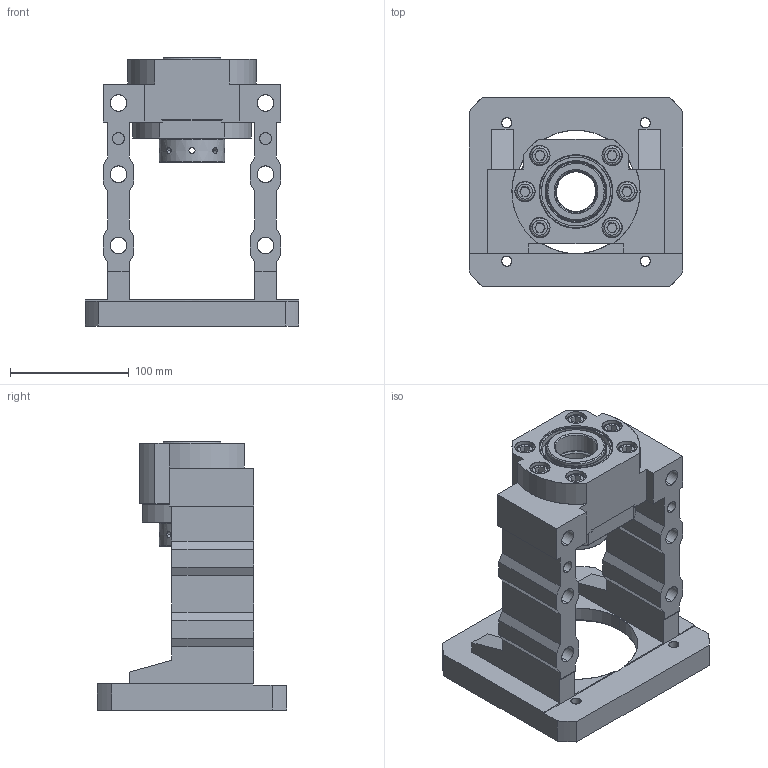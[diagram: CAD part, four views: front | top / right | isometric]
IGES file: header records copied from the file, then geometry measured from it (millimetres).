
Start section: SolidWorks IGES file using analytic representation for surfaces
Bounding box: 180 x 160 x 226 mm (x, y, z)
Surface area: 229400.8 mm2 (no closed solid volume)
Topology: 0 solids, 0 shells, 361 faces, 6472 edges, 6464 vertices
Faces by surface type: revolution 191, bspline 170
